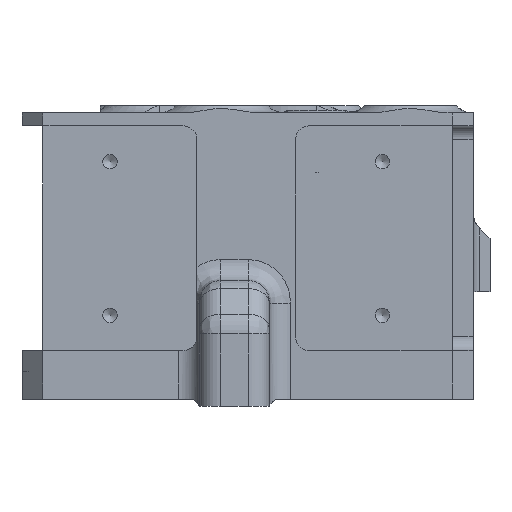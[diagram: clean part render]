
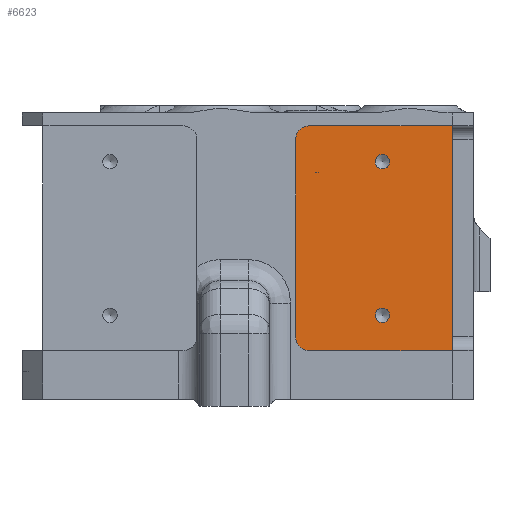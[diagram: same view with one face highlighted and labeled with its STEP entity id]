
A CAD part, front view. The second image highlights one B-rep face of the part: STEP entity #6623.
In plain terms, the highlighted planar face has unit normal (0, -1, 0).
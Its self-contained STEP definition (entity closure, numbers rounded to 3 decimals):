
#5414=FACE_BOUND('',#9531,.T.);
#5415=FACE_BOUND('',#9532,.T.);
#5416=FACE_BOUND('',#9533,.T.);
#6623=ADVANCED_FACE('',(#5414,#5415,#5416),#7560,.T.);
#7560=PLANE('',#28131);
#9531=EDGE_LOOP('',(#13194));
#9532=EDGE_LOOP('',(#13195));
#9533=EDGE_LOOP('',(#13196,#13197,#13198,#13199,#13200,#13201));
#13194=ORIENTED_EDGE('',*,*,#20153,.T.);
#13195=ORIENTED_EDGE('',*,*,#20154,.T.);
#13196=ORIENTED_EDGE('',*,*,#20155,.T.);
#13197=ORIENTED_EDGE('',*,*,#20149,.F.);
#13198=ORIENTED_EDGE('',*,*,#20141,.T.);
#13199=ORIENTED_EDGE('',*,*,#20136,.F.);
#13200=ORIENTED_EDGE('',*,*,#20139,.T.);
#13201=ORIENTED_EDGE('',*,*,#20152,.F.);
#17743=VERTEX_POINT('',#41776);
#17744=VERTEX_POINT('',#41778);
#17745=VERTEX_POINT('',#41782);
#17746=VERTEX_POINT('',#41786);
#17751=VERTEX_POINT('',#41804);
#17752=VERTEX_POINT('',#41808);
#17753=VERTEX_POINT('',#41812);
#17754=VERTEX_POINT('',#41814);
#20136=EDGE_CURVE('',#17743,#17744,#24846,.T.);
#20139=EDGE_CURVE('',#17743,#17745,#22364,.T.);
#20141=EDGE_CURVE('',#17746,#17744,#22365,.T.);
#20149=EDGE_CURVE('',#17746,#17751,#24855,.T.);
#20152=EDGE_CURVE('',#17752,#17745,#24858,.T.);
#20153=EDGE_CURVE('',#17753,#17753,#22368,.T.);
#20154=EDGE_CURVE('',#17754,#17754,#22369,.T.);
#20155=EDGE_CURVE('',#17752,#17751,#24859,.T.);
#22364=CIRCLE('',#28118,10.);
#22365=CIRCLE('',#28120,10.);
#22368=CIRCLE('',#28129,5.15);
#22369=CIRCLE('',#28130,5.15);
#24846=LINE('',#41777,#26101);
#24855=LINE('',#41803,#26110);
#24858=LINE('',#41809,#26113);
#24859=LINE('',#41815,#26114);
#26101=VECTOR('',#32851,1.);
#26110=VECTOR('',#32880,1.);
#26113=VECTOR('',#32885,1.);
#26114=VECTOR('',#32892,1.);
#28118=AXIS2_PLACEMENT_3D('',#41783,#32856,#32857);
#28120=AXIS2_PLACEMENT_3D('',#41787,#32861,#32862);
#28129=AXIS2_PLACEMENT_3D('',#41811,#32888,#32889);
#28130=AXIS2_PLACEMENT_3D('',#41813,#32890,#32891);
#28131=AXIS2_PLACEMENT_3D('',#41816,#32893,#32894);
#32851=DIRECTION('',(0.,0.,1.));
#32856=DIRECTION('',(0.,-1.,0.));
#32857=DIRECTION('',(0.,0.,1.));
#32861=DIRECTION('',(0.,-1.,0.));
#32862=DIRECTION('',(0.,0.,1.));
#32880=DIRECTION('',(1.,0.,0.));
#32885=DIRECTION('',(-1.,0.,0.));
#32888=DIRECTION('',(0.,1.,0.));
#32889=DIRECTION('',(0.,0.,1.));
#32890=DIRECTION('',(0.,1.,0.));
#32891=DIRECTION('',(0.,0.,1.));
#32892=DIRECTION('',(0.,0.,1.));
#32893=DIRECTION('',(0.,-1.,0.));
#32894=DIRECTION('',(0.,0.,1.));
#41776=CARTESIAN_POINT('',(357.8,-840.,154.8));
#41777=CARTESIAN_POINT('',(357.8,-840.,148.));
#41778=CARTESIAN_POINT('',(357.8,-840.,295.7));
#41782=CARTESIAN_POINT('',(367.8,-840.,144.8));
#41783=CARTESIAN_POINT('',(367.8,-840.,154.8));
#41786=CARTESIAN_POINT('',(367.8,-840.,305.7));
#41787=CARTESIAN_POINT('',(367.8,-840.,295.7));
#41803=CARTESIAN_POINT('',(370.,-840.,305.7));
#41804=CARTESIAN_POINT('',(470.,-840.,305.7));
#41808=CARTESIAN_POINT('',(470.,-840.,144.8));
#41809=CARTESIAN_POINT('',(470.,-840.,144.8));
#41811=CARTESIAN_POINT('',(420.,-840.,280.));
#41812=CARTESIAN_POINT('',(420.,-840.,285.15));
#41813=CARTESIAN_POINT('',(420.,-840.,170.));
#41814=CARTESIAN_POINT('',(420.,-840.,175.15));
#41815=CARTESIAN_POINT('',(470.,-840.,207.5));
#41816=CARTESIAN_POINT('',(420.,-840.,207.5));
